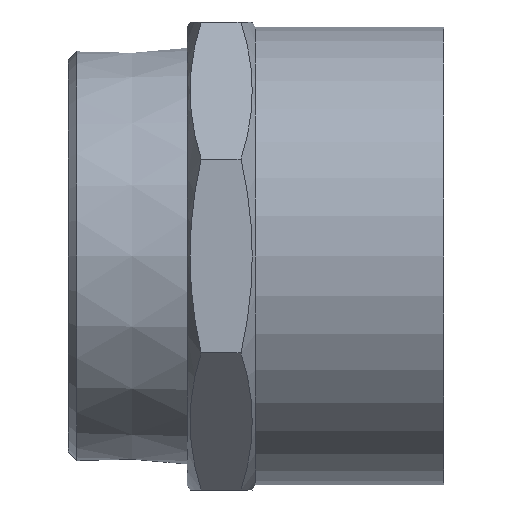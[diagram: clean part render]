
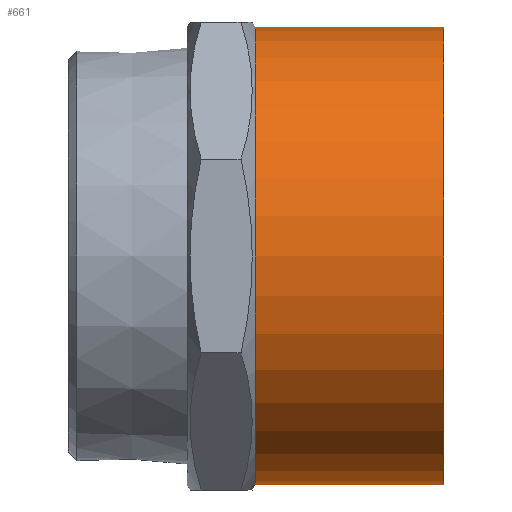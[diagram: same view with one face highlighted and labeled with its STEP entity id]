
A CAD part, front view. The second image highlights one B-rep face of the part: STEP entity #661.
In plain terms, the highlighted cylindrical face has radius 41.5 mm (diameter 83 mm), a full revolution.
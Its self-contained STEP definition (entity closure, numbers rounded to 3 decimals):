
#470=CARTESIAN_POINT('',(33.846,41.5,0.0));
#471=VERTEX_POINT('',#470);
#472=CARTESIAN_POINT('',(33.846,0.0,0.0));
#473=DIRECTION('',(1.0,0.0,0.0));
#474=DIRECTION('',(0.0,1.0,0.0));
#475=AXIS2_PLACEMENT_3D('',#472,#473,#474);
#476=CIRCLE('',#475,41.5);
#477=EDGE_CURVE('',#471,#471,#476,.T.);
#642=CARTESIAN_POINT('',(50.923,0.0,0.0));
#643=DIRECTION('',(1.0,0.0,0.0));
#644=DIRECTION('',(0.0,1.0,0.0));
#645=AXIS2_PLACEMENT_3D('',#642,#643,#644);
#646=CYLINDRICAL_SURFACE('',#645,41.5);
#647=CARTESIAN_POINT('',(68.0,41.5,0.0));
#648=VERTEX_POINT('',#647);
#649=CARTESIAN_POINT('',(68.0,0.0,0.0));
#650=DIRECTION('',(1.0,0.0,0.0));
#651=DIRECTION('',(0.0,1.0,0.0));
#652=AXIS2_PLACEMENT_3D('',#649,#650,#651);
#653=CIRCLE('',#652,41.5);
#654=EDGE_CURVE('',#648,#648,#653,.T.);
#655=ORIENTED_EDGE('',*,*,#654,.F.);
#656=EDGE_LOOP('',(#655));
#657=FACE_OUTER_BOUND('',#656,.T.);
#658=ORIENTED_EDGE('',*,*,#477,.T.);
#659=EDGE_LOOP('',(#658));
#660=FACE_BOUND('',#659,.T.);
#661=ADVANCED_FACE('',(#657,#660),#646,.T.);
